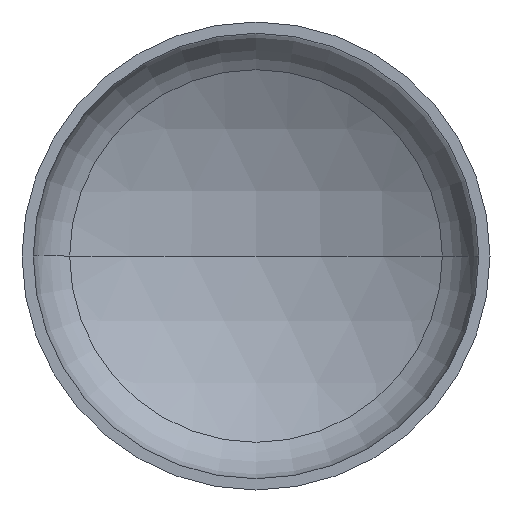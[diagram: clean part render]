
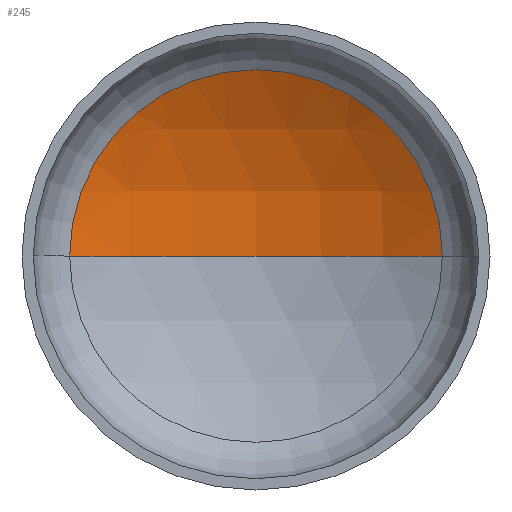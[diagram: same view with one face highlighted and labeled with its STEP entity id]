
A CAD part, front view. The second image highlights one B-rep face of the part: STEP entity #245.
In plain terms, the highlighted spherical face has radius 800 mm.
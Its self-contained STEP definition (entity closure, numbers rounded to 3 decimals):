
#11 = VERTEX_POINT ( 'NONE', #297 ) ;
#26 = EDGE_LOOP ( 'NONE', ( #138, #126, #92 ) ) ;
#29 = AXIS2_PLACEMENT_3D ( 'NONE', #262, #292, #206 ) ;
#47 = VERTEX_POINT ( 'NONE', #271 ) ;
#49 = AXIS2_PLACEMENT_3D ( 'NONE', #115, #166, #286 ) ;
#51 = AXIS2_PLACEMENT_3D ( 'NONE', #373, #247, #329 ) ;
#55 = AXIS2_PLACEMENT_3D ( 'NONE', #219, #221, #222 ) ;
#61 = CIRCLE ( 'NONE', #49, 800. ) ;
#92 = ORIENTED_EDGE ( 'NONE', *, *, #103, .T. ) ;
#103 = EDGE_CURVE ( 'NONE', #131, #11, #319, .T. ) ;
#106 = EDGE_CURVE ( 'NONE', #47, #131, #109, .T. ) ;
#109 = CIRCLE ( 'NONE', #51, 800. ) ;
#115 = CARTESIAN_POINT ( 'NONE',  ( 0., -484.45, 0. ) ) ;
#126 = ORIENTED_EDGE ( 'NONE', *, *, #106, .T. ) ;
#128 = EDGE_CURVE ( 'NONE', #47, #11, #61, .T. ) ;
#131 = VERTEX_POINT ( 'NONE', #307 ) ;
#138 = ORIENTED_EDGE ( 'NONE', *, *, #128, .F. ) ;
#166 = DIRECTION ( 'NONE',  ( 0., 0., 1. ) ) ;
#180 = SPHERICAL_SURFACE ( 'NONE', #29, 800. ) ;
#189 = FACE_OUTER_BOUND ( 'NONE', #26, .T. ) ;
#206 = DIRECTION ( 'NONE',  ( -1., 0., 0. ) ) ;
#219 = CARTESIAN_POINT ( 'NONE',  ( 0., 209.441, 0. ) ) ;
#221 = DIRECTION ( 'NONE',  ( 0., -1., 0. ) ) ;
#222 = DIRECTION ( 'NONE',  ( 1., 0., 0. ) ) ;
#245 = ADVANCED_FACE ( 'NONE', ( #189 ), #180, .F. ) ;
#247 = DIRECTION ( 'NONE',  ( 0., 0., -1. ) ) ;
#262 = CARTESIAN_POINT ( 'NONE',  ( 0., -484.45, 0. ) ) ;
#271 = CARTESIAN_POINT ( 'NONE',  ( 0., 315.55, 0. ) ) ;
#286 = DIRECTION ( 'NONE',  ( 1., 0., 0. ) ) ;
#292 = DIRECTION ( 'NONE',  ( 0., 0., -1. ) ) ;
#297 = CARTESIAN_POINT ( 'NONE',  ( -398.14, 209.441, 0. ) ) ;
#307 = CARTESIAN_POINT ( 'NONE',  ( 398.14, 209.441, 0. ) ) ;
#319 = CIRCLE ( 'NONE', #55, 398.14 ) ;
#329 = DIRECTION ( 'NONE',  ( -1., 0., 0. ) ) ;
#373 = CARTESIAN_POINT ( 'NONE',  ( 0., -484.45, 0. ) ) ;
